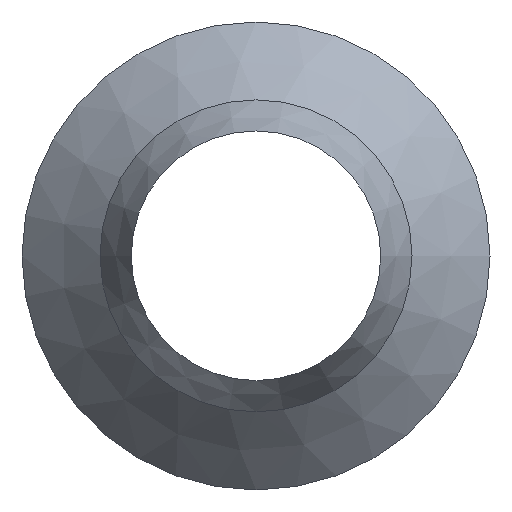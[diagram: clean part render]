
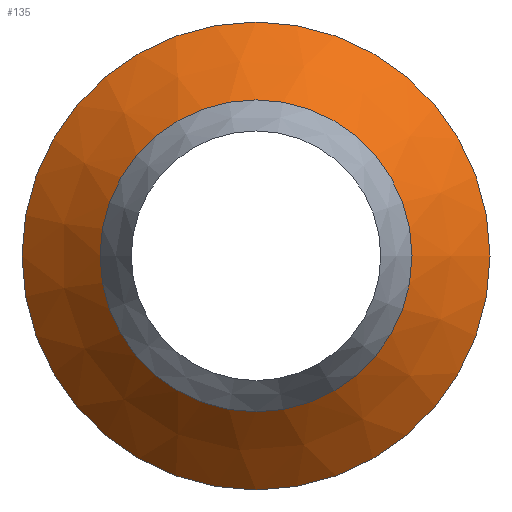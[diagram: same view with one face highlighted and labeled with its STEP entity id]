
A CAD part, top view. The second image highlights one B-rep face of the part: STEP entity #135.
In plain terms, the highlighted conical face has half-angle 45 degrees and reference radius 150000 mm.
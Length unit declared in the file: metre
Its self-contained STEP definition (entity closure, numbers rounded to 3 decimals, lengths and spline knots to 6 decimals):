
#31 = CONICAL_SURFACE('',#32,80.,0.464);
#32 = AXIS2_PLACEMENT_3D('',#33,#34,#35);
#33 = CARTESIAN_POINT('',(0.,0.,340.));
#34 = DIRECTION('',(0.,0.,-1.));
#35 = DIRECTION('',(1.,0.,0.));
#44 = VERTEX_POINT('',#45);
#45 = CARTESIAN_POINT('',(100.,0.,300.));
#66 = EDGE_CURVE('',#44,#44,#67,.T.);
#67 = SURFACE_CURVE('',#68,(#73,#79),.PCURVE_S1.);
#68 = CIRCLE('',#69,100.);
#69 = AXIS2_PLACEMENT_3D('',#70,#71,#72);
#70 = CARTESIAN_POINT('',(0.,0.,300.));
#71 = DIRECTION('',(0.,0.,1.));
#72 = DIRECTION('',(1.,0.,0.));
#73 = PCURVE('',#31,#74);
#74 = DEFINITIONAL_REPRESENTATION('',(#75),#78);
#75 = B_SPLINE_CURVE_WITH_KNOTS('',1,(#76,#77),.UNSPECIFIED.,.F.,.F.,(2,
    2),(0.,6.283185),.PIECEWISE_BEZIER_KNOTS.);
#76 = CARTESIAN_POINT('',(0.,40.));
#77 = CARTESIAN_POINT('',(-6.283,40.));
#78 = ( GEOMETRIC_REPRESENTATION_CONTEXT(2) 
PARAMETRIC_REPRESENTATION_CONTEXT() REPRESENTATION_CONTEXT('2D SPACE',''
  ) );
#79 = PCURVE('',#80,#85);
#80 = CYLINDRICAL_SURFACE('',#81,100.);
#81 = AXIS2_PLACEMENT_3D('',#82,#83,#84);
#82 = CARTESIAN_POINT('',(0.,0.,0.));
#83 = DIRECTION('',(0.,0.,1.));
#84 = DIRECTION('',(1.,0.,0.));
#85 = DEFINITIONAL_REPRESENTATION('',(#86),#90);
#86 = LINE('',#87,#88);
#87 = CARTESIAN_POINT('',(0.,300.));
#88 = VECTOR('',#89,1.);
#89 = DIRECTION('',(1.,0.));
#90 = ( GEOMETRIC_REPRESENTATION_CONTEXT(2) 
PARAMETRIC_REPRESENTATION_CONTEXT() REPRESENTATION_CONTEXT('2D SPACE',''
  ) );
#135 = ADVANCED_FACE('',(#136),#148,.T.);
#136 = FACE_BOUND('',#137,.T.);
#137 = EDGE_LOOP('',(#138,#166,#181,#182));
#138 = ORIENTED_EDGE('',*,*,#139,.F.);
#139 = EDGE_CURVE('',#140,#44,#142,.T.);
#140 = VERTEX_POINT('',#141);
#141 = CARTESIAN_POINT('',(150.,0.,250.));
#142 = SEAM_CURVE('',#143,(#147,#159),.PCURVE_S1.);
#143 = LINE('',#144,#145);
#144 = CARTESIAN_POINT('',(150.,0.,250.));
#145 = VECTOR('',#146,1.);
#146 = DIRECTION('',(-0.707,0.,0.707));
#147 = PCURVE('',#148,#153);
#148 = CONICAL_SURFACE('',#149,150.,0.785);
#149 = AXIS2_PLACEMENT_3D('',#150,#151,#152);
#150 = CARTESIAN_POINT('',(0.,0.,250.));
#151 = DIRECTION('',(0.,0.,-1.));
#152 = DIRECTION('',(1.,0.,0.));
#153 = DEFINITIONAL_REPRESENTATION('',(#154),#158);
#154 = LINE('',#155,#156);
#155 = CARTESIAN_POINT('',(0.,0.));
#156 = VECTOR('',#157,1.);
#157 = DIRECTION('',(0.,-1.));
#158 = ( GEOMETRIC_REPRESENTATION_CONTEXT(2) 
PARAMETRIC_REPRESENTATION_CONTEXT() REPRESENTATION_CONTEXT('2D SPACE',''
  ) );
#159 = PCURVE('',#148,#160);
#160 = DEFINITIONAL_REPRESENTATION('',(#161),#165);
#161 = LINE('',#162,#163);
#162 = CARTESIAN_POINT('',(-6.283,0.));
#163 = VECTOR('',#164,1.);
#164 = DIRECTION('',(0.,-1.));
#165 = ( GEOMETRIC_REPRESENTATION_CONTEXT(2) 
PARAMETRIC_REPRESENTATION_CONTEXT() REPRESENTATION_CONTEXT('2D SPACE',''
  ) );
#166 = ORIENTED_EDGE('',*,*,#167,.T.);
#167 = EDGE_CURVE('',#140,#140,#168,.T.);
#168 = SURFACE_CURVE('',#169,(#174),.PCURVE_S1.);
#169 = CIRCLE('',#170,150.);
#170 = AXIS2_PLACEMENT_3D('',#171,#172,#173);
#171 = CARTESIAN_POINT('',(0.,0.,250.));
#172 = DIRECTION('',(0.,0.,1.));
#173 = DIRECTION('',(1.,0.,0.));
#174 = PCURVE('',#148,#175);
#175 = DEFINITIONAL_REPRESENTATION('',(#176),#180);
#176 = LINE('',#177,#178);
#177 = CARTESIAN_POINT('',(0.,0.));
#178 = VECTOR('',#179,1.);
#179 = DIRECTION('',(-1.,0.));
#180 = ( GEOMETRIC_REPRESENTATION_CONTEXT(2) 
PARAMETRIC_REPRESENTATION_CONTEXT() REPRESENTATION_CONTEXT('2D SPACE',''
  ) );
#181 = ORIENTED_EDGE('',*,*,#139,.T.);
#182 = ORIENTED_EDGE('',*,*,#66,.F.);
